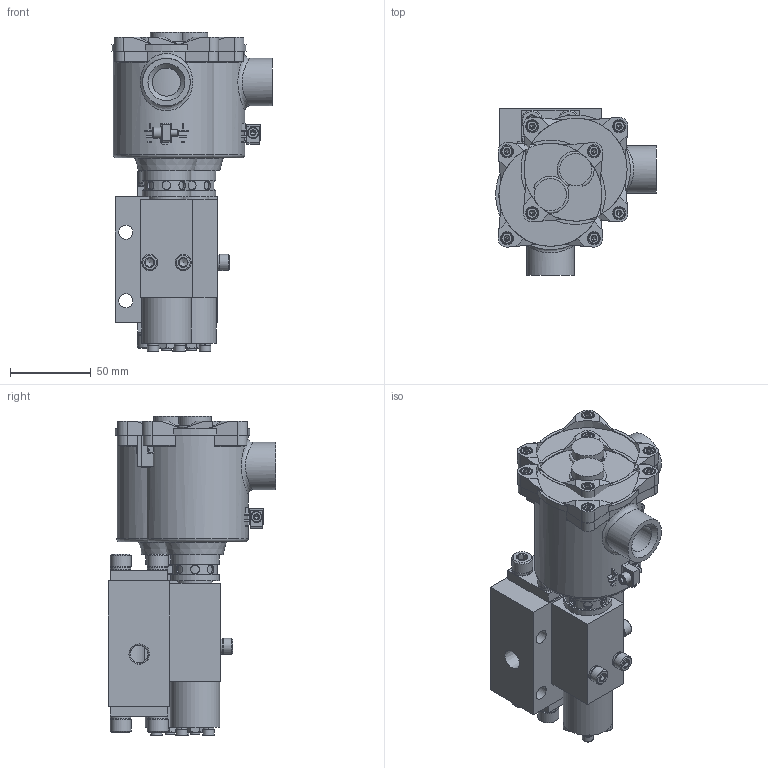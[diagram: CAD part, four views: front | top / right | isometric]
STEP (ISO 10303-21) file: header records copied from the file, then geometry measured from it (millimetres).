
FILE_DESCRIPTION( ( 'Unknown' ), '1' );
FILE_NAME( 'K:/Shared Technical Files/3D Models/FP15_S1_04_43_BC_X_XX-X_X.stp', 'Unknown', ( 'Unknown' ), ( 'Unknown' ), 'PSStep 13.0', 'Unknown', ' ' );
FILE_SCHEMA( ( 'AUTOMOTIVE_DESIGN { 1 0 10303 214 1 1 1 1 }' ) );
Length unit declared in the file: millimetre
Products named in the file (4): Assem1; FP15-S1_3-0X; FP01-AR
Bounding box: 99.52 x 103.72 x 198.5 mm (x, y, z)
Volume: 1078403.6 mm3; surface area: 228113.7 mm2
Topology: 6 solids, 52 shells, 2476 faces, 5842 edges, 3688 vertices
Faces by surface type: plane 1358, cylinder 606, cone 294, torus 198, extrusion 16, bspline 2, sphere 2
Full cylindrical faces by diameter (mm): 2 x12, 2.24 x4, 3 x2, 3.12 x10, 3.14 x10, 3.175 x4, 3.3 x18, 3.8 x4, 4 x30, 4.2 x2, 4.44 x2, 4.5 x8, 4.76 x4, 4.78 x4, 5 x6, 5.5 x24, 6 x10, 6.3 x8, 6.45 x16, 6.47 x16, 6.6 x4, 6.8 x16, 7 x18, 8 x24, 8.8 x22, 9.52 x2, 9.53 x2, 9.58 x2, 10 x8, 11 x6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
Entity records: 47178 total; most frequent: CARTESIAN_POINT 11223, DIRECTION 5404, ORIENTED_EDGE 4748, EDGE_CURVE 2374, AXIS2_PLACEMENT_3D 2173, EDGE_LOOP 1791, VERTEX_POINT 1683, FACE_OUTER_BOUND 1464
